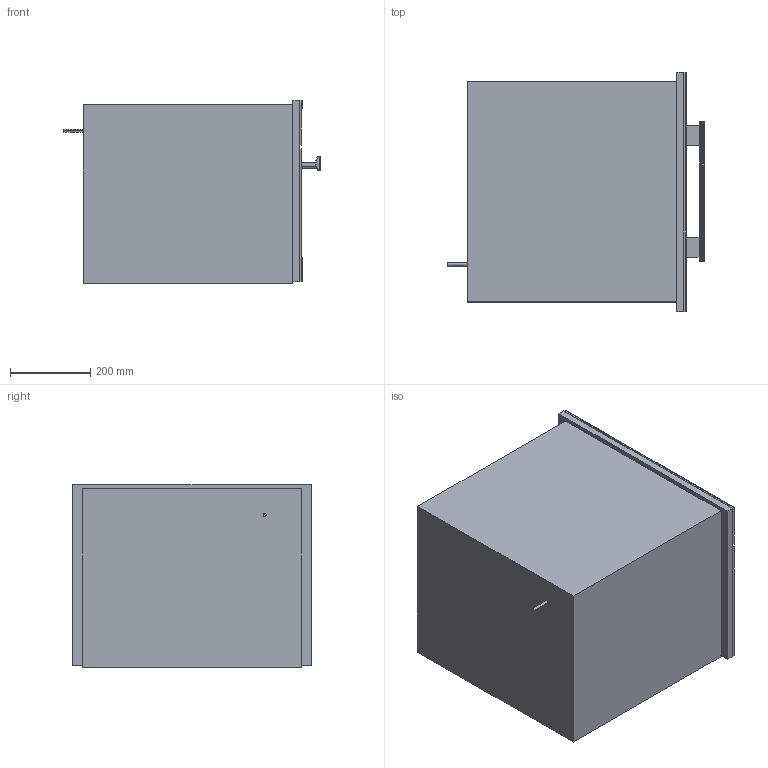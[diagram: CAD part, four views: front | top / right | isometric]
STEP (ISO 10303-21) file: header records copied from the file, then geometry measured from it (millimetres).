
FILE_DESCRIPTION(/* description */ (''),/* implementation_level */ '2;1');
FILE_NAME(/* name */ 'DG6200_CLST',/* time_stamp */ '2013-03-11T12:08:38+01:00',/* author */ (''),/* organization */ (''),/* preprocessor_version */ 'ST-DEVELOPER v10',/* originating_system */ '',/* authorisation */ '');
FILE_SCHEMA (('AUTOMOTIVE_DESIGN_CC2'));
Length unit declared in the file: millimetre
Products named in the file (1): 1
Bounding box: 639.31 x 595 x 455.25 mm (x, y, z)
Volume: 98958595.6 mm3; surface area: 3536506.7 mm2
Topology: 45 solids, 46 shells, 259 faces, 474 edges, 304 vertices
Faces by surface type: bspline 259
Entity records: 12921 total; most frequent: CARTESIAN_POINT 9659, ORIENTED_EDGE 928, EDGE_CURVE 470, VERTEX_POINT 304, EDGE_LOOP 261, ADVANCED_FACE 259, FACE_OUTER_BOUND 259, B_SPLINE_CURVE_WITH_KNOTS 154
